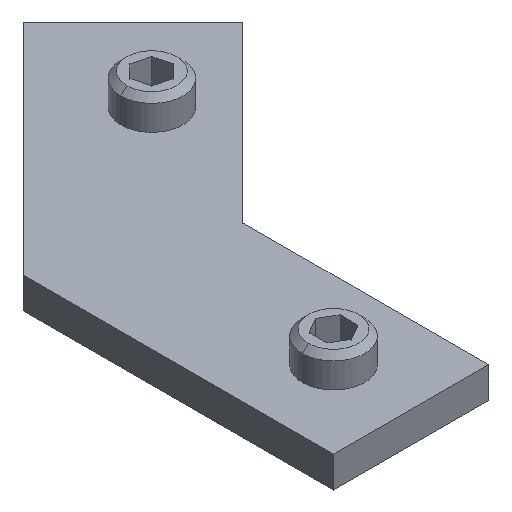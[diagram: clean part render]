
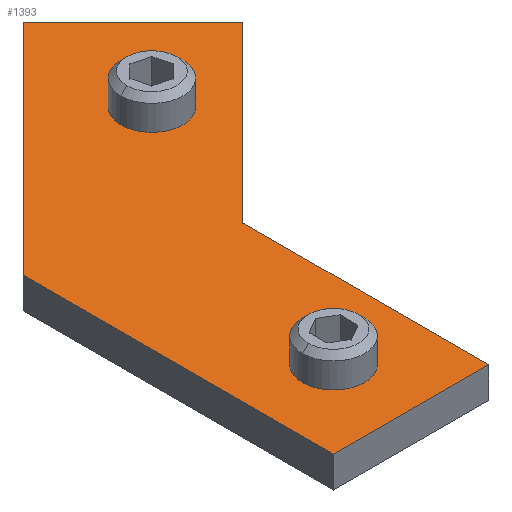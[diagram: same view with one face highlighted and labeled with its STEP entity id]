
A CAD part, isometric view. The second image highlights one B-rep face of the part: STEP entity #1393.
In plain terms, the highlighted planar face has unit normal (0, 0, 1).
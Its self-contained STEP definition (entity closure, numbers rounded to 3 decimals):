
#3 = EDGE_CURVE ( 'NONE', #69, #4, #1340, .T. ) ;
#4 = VERTEX_POINT ( 'NONE', #94 ) ;
#22 = FACE_OUTER_BOUND ( 'NONE', #456, .T. ) ;
#35 = CARTESIAN_POINT ( 'NONE',  ( 0., 0., 4. ) ) ;
#69 = VERTEX_POINT ( 'NONE', #1349 ) ;
#71 = VERTEX_POINT ( 'NONE', #1219 ) ;
#94 = CARTESIAN_POINT ( 'NONE',  ( -20., 8.284, 4. ) ) ;
#102 = VERTEX_POINT ( 'NONE', #214 ) ;
#160 = DIRECTION ( 'NONE',  ( 0., 0., -1. ) ) ;
#167 = LINE ( 'NONE', #1514, #805 ) ;
#183 = DIRECTION ( 'NONE',  ( 1., 0., 0. ) ) ;
#188 = CARTESIAN_POINT ( 'NONE',  ( -10., -21.716, 4. ) ) ;
#203 = EDGE_CURVE ( 'NONE', #768, #1159, #1250, .T. ) ;
#205 = ORIENTED_EDGE ( 'NONE', *, *, #321, .F. ) ;
#213 = VERTEX_POINT ( 'NONE', #807 ) ;
#214 = CARTESIAN_POINT ( 'NONE',  ( 11.071, 18.789, 4. ) ) ;
#228 = CARTESIAN_POINT ( 'NONE',  ( 0., 0., 4. ) ) ;
#265 = ORIENTED_EDGE ( 'NONE', *, *, #870, .F. ) ;
#280 = ORIENTED_EDGE ( 'NONE', *, *, #1370, .T. ) ;
#285 = EDGE_LOOP ( 'NONE', ( #1399, #823 ) ) ;
#295 = VERTEX_POINT ( 'NONE', #759 ) ;
#299 = EDGE_CURVE ( 'NONE', #1159, #921, #167, .T. ) ;
#305 = CARTESIAN_POINT ( 'NONE',  ( 7.071, 18.789, 4. ) ) ;
#321 = EDGE_CURVE ( 'NONE', #71, #69, #1373, .T. ) ;
#332 = AXIS2_PLACEMENT_3D ( 'NONE', #1521, #1269, #765 ) ;
#380 = VECTOR ( 'NONE', #502, 1000. ) ;
#395 = DIRECTION ( 'NONE',  ( -0.707, -0.707, 0. ) ) ;
#436 = AXIS2_PLACEMENT_3D ( 'NONE', #305, #160, #528 ) ;
#446 = CARTESIAN_POINT ( 'NONE',  ( -20., -31.716, 4. ) ) ;
#454 = DIRECTION ( 'NONE',  ( 1., 0., 0. ) ) ;
#456 = EDGE_LOOP ( 'NONE', ( #265, #843, #1464, #1150, #1596, #205 ) ) ;
#459 = DIRECTION ( 'NONE',  ( 0., 0., -1. ) ) ;
#502 = DIRECTION ( 'NONE',  ( 0.707, 0.707, 0. ) ) ;
#523 = AXIS2_PLACEMENT_3D ( 'NONE', #188, #930, #183 ) ;
#528 = DIRECTION ( 'NONE',  ( 1., 0., 0. ) ) ;
#578 = EDGE_LOOP ( 'NONE', ( #280, #1253 ) ) ;
#593 = PLANE ( 'NONE',  #1380 ) ;
#644 = EDGE_CURVE ( 'NONE', #845, #213, #744, .T. ) ;
#653 = DIRECTION ( 'NONE',  ( 0., -1., 0. ) ) ;
#661 = CARTESIAN_POINT ( 'NONE',  ( 0., 0., 4. ) ) ;
#691 = VECTOR ( 'NONE', #653, 1000. ) ;
#698 = LINE ( 'NONE', #1365, #380 ) ;
#744 = CIRCLE ( 'NONE', #523, 4. ) ;
#759 = CARTESIAN_POINT ( 'NONE',  ( 3.071, 18.789, 4. ) ) ;
#765 = DIRECTION ( 'NONE',  ( 1., 0., 0. ) ) ;
#768 = VERTEX_POINT ( 'NONE', #1088 ) ;
#805 = VECTOR ( 'NONE', #395, 1000. ) ;
#807 = CARTESIAN_POINT ( 'NONE',  ( -14., -21.716, 4. ) ) ;
#823 = ORIENTED_EDGE ( 'NONE', *, *, #1309, .T. ) ;
#830 = EDGE_CURVE ( 'NONE', #295, #102, #1030, .T. ) ;
#843 = ORIENTED_EDGE ( 'NONE', *, *, #299, .F. ) ;
#845 = VERTEX_POINT ( 'NONE', #904 ) ;
#851 = DIRECTION ( 'NONE',  ( 0., 0., 1. ) ) ;
#870 = EDGE_CURVE ( 'NONE', #921, #71, #1524, .T. ) ;
#882 = CIRCLE ( 'NONE', #1044, 4. ) ;
#886 = CARTESIAN_POINT ( 'NONE',  ( 0., -31.716, 4. ) ) ;
#904 = CARTESIAN_POINT ( 'NONE',  ( -6., -21.716, 4. ) ) ;
#921 = VERTEX_POINT ( 'NONE', #35 ) ;
#930 = DIRECTION ( 'NONE',  ( 0., 0., -1. ) ) ;
#973 = FACE_BOUND ( 'NONE', #285, .T. ) ;
#1007 = DIRECTION ( 'NONE',  ( -1., 0., 0. ) ) ;
#1019 = FACE_BOUND ( 'NONE', #578, .T. ) ;
#1030 = CIRCLE ( 'NONE', #436, 4. ) ;
#1044 = AXIS2_PLACEMENT_3D ( 'NONE', #1347, #459, #454 ) ;
#1068 = VECTOR ( 'NONE', #1007, 1000. ) ;
#1088 = CARTESIAN_POINT ( 'NONE',  ( 8.284, 36.569, 4. ) ) ;
#1089 = DIRECTION ( 'NONE',  ( 1., 0., 0. ) ) ;
#1150 = ORIENTED_EDGE ( 'NONE', *, *, #1572, .F. ) ;
#1159 = VERTEX_POINT ( 'NONE', #1287 ) ;
#1197 = VECTOR ( 'NONE', #1478, 1000. ) ;
#1219 = CARTESIAN_POINT ( 'NONE',  ( 0., -31.716, 4. ) ) ;
#1250 = LINE ( 'NONE', #1322, #1197 ) ;
#1253 = ORIENTED_EDGE ( 'NONE', *, *, #830, .T. ) ;
#1269 = DIRECTION ( 'NONE',  ( 0., 0., -1. ) ) ;
#1287 = CARTESIAN_POINT ( 'NONE',  ( 22.426, 22.426, 4. ) ) ;
#1309 = EDGE_CURVE ( 'NONE', #213, #845, #1320, .T. ) ;
#1314 = DIRECTION ( 'NONE',  ( 0., 1., 0. ) ) ;
#1320 = CIRCLE ( 'NONE', #332, 4. ) ;
#1322 = CARTESIAN_POINT ( 'NONE',  ( 8.284, 36.569, 4. ) ) ;
#1340 = LINE ( 'NONE', #446, #1566 ) ;
#1347 = CARTESIAN_POINT ( 'NONE',  ( 7.071, 18.789, 4. ) ) ;
#1349 = CARTESIAN_POINT ( 'NONE',  ( -20., -31.716, 4. ) ) ;
#1365 = CARTESIAN_POINT ( 'NONE',  ( -20., 8.284, 4. ) ) ;
#1370 = EDGE_CURVE ( 'NONE', #102, #295, #882, .T. ) ;
#1373 = LINE ( 'NONE', #886, #1068 ) ;
#1380 = AXIS2_PLACEMENT_3D ( 'NONE', #228, #851, #1089 ) ;
#1393 = ADVANCED_FACE ( 'NONE', ( #1019, #973, #22 ), #593, .T. ) ;
#1399 = ORIENTED_EDGE ( 'NONE', *, *, #644, .T. ) ;
#1464 = ORIENTED_EDGE ( 'NONE', *, *, #203, .F. ) ;
#1478 = DIRECTION ( 'NONE',  ( 0.707, -0.707, 0. ) ) ;
#1514 = CARTESIAN_POINT ( 'NONE',  ( 22.426, 22.426, 4. ) ) ;
#1521 = CARTESIAN_POINT ( 'NONE',  ( -10., -21.716, 4. ) ) ;
#1524 = LINE ( 'NONE', #661, #691 ) ;
#1566 = VECTOR ( 'NONE', #1314, 1000. ) ;
#1572 = EDGE_CURVE ( 'NONE', #4, #768, #698, .T. ) ;
#1596 = ORIENTED_EDGE ( 'NONE', *, *, #3, .F. ) ;
